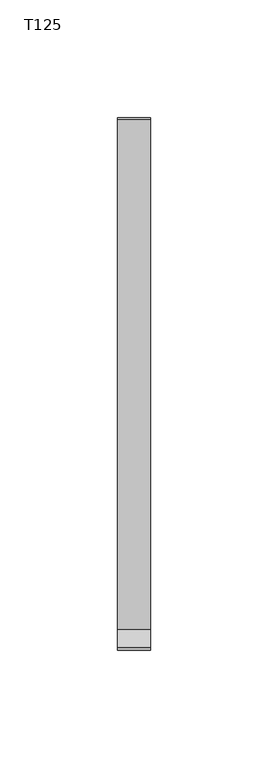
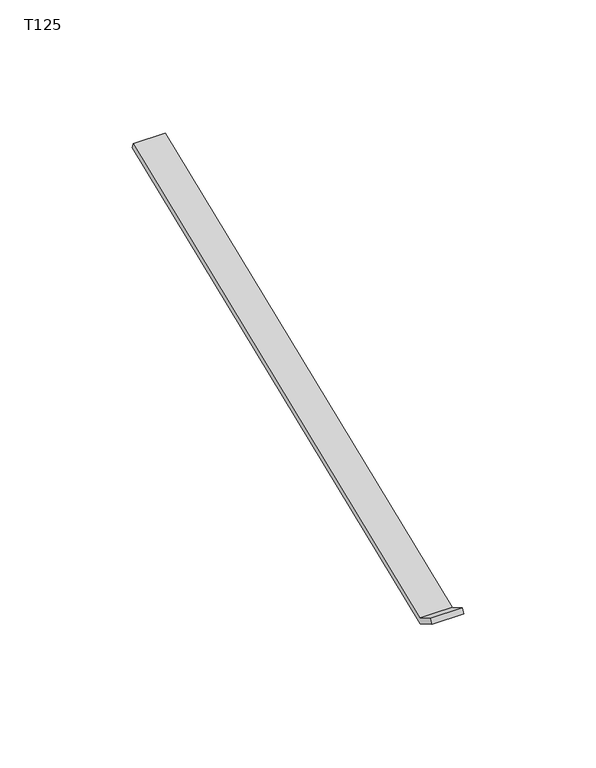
"""IFC4 building model written with IfcOpenShell, lengths in millimetres: proxy geometry, GROVIK_Gutter_Support rod : T125."""

import ifcopenshell
import ifcopenshell.guid

model = None  # the IFC model being written
_history = None  # IfcOwnerHistory: only IFC2X3 demands one
_inside = {}  # id of a spatial element -> (the spatial element, [elements in it])
_under = {}  # id of a project, library or spatial element -> (it, [spatial elements below it])
_declared = {}  # id of a project -> (the project, [libraries it declares])
_typed = {}  # id of a type object -> (the type object, [elements of that type])
_made_of = {}  # id of a material, layer set ... -> (it, [elements and type objects made of it])


def new_model(schema):
    """Start an empty IFC model of exactly this schema.

    Asked for "IFC4X3", IfcOpenShell would pick the latest addendum, in which some entities
    have other attributes; the version numbers below select the first issue.
    IFC2X3 requires an IfcOwnerHistory on every rooted entity: one is made here for all.
    """
    global model, _history
    if schema == "IFC4X3":
        model = ifcopenshell.file(schema_version=(4, 3, 0, 0))
    else:
        model = ifcopenshell.file(schema=schema)
    _inside.clear()
    _under.clear()
    _declared.clear()
    _typed.clear()
    _made_of.clear()
    _history = None
    if model.schema == "IFC2X3":
        org = make("IfcOrganization", Name="unknown")
        user = make(
            "IfcPersonAndOrganization",
            ThePerson=make("IfcPerson", FamilyName="unknown"),
            TheOrganization=org,
        )
        app = make(
            "IfcApplication",
            ApplicationDeveloper=org,
            Version="unknown",
            ApplicationFullName="unknown",
            ApplicationIdentifier="unknown",
        )
        _history = make(
            "IfcOwnerHistory",
            OwningUser=user,
            OwningApplication=app,
            ChangeAction="ADDED",
            CreationDate=0,
        )
    return model


def make(cls, **values):
    """One entity of the class cls with the attributes given. An attribute that is None is left unset."""
    return model.create_entity(
        cls, **{name: value for name, value in values.items() if value is not None}
    )


def rooted(cls, **values):
    """An entity with a GlobalId (a new one), such as an element, a storey or a relation."""
    return make(cls, GlobalId=ifcopenshell.guid.new(), OwnerHistory=_history, **values)


def si_unit(unit_type, name, prefix=None):
    """IfcSIUnit, for example si_unit("LENGTHUNIT", "METRE", prefix="MILLI")."""
    return make("IfcSIUnit", UnitType=unit_type, Prefix=prefix, Name=name)


def assignment(units):
    """IfcUnitAssignment: the units of a project."""
    return None if units is None else make("IfcUnitAssignment", Units=units)


def point(xyz):
    """IfcCartesianPoint."""
    return None if xyz is None else make("IfcCartesianPoint", Coordinates=xyz)


def direction(xyz):
    """IfcDirection."""
    return None if xyz is None else make("IfcDirection", DirectionRatios=xyz)


def frame(location, z_axis=None, x_axis=None):
    """IfcAxis2Placement3D, a coordinate frame: its origin and axes. An axis left out is left unset."""
    return make(
        "IfcAxis2Placement3D",
        Location=point(location),
        Axis=direction(z_axis),
        RefDirection=direction(x_axis),
    )


def origin():
    """The frame at (0, 0, 0) with its axes left unset."""
    return frame((0.0, 0.0, 0.0))


def place(relative_to, where):
    """IfcLocalPlacement: puts the frame where relative to a parent placement (None: the world)."""
    return make(
        "IfcLocalPlacement", PlacementRelTo=relative_to, RelativePlacement=where
    )


def context(
    kind, dimensions, precision=None, world=None, true_north=None, identifier=None
):
    """IfcGeometricRepresentationContext, for example the 3D "Model" context."""
    return make(
        "IfcGeometricRepresentationContext",
        ContextIdentifier=identifier,
        ContextType=kind,
        CoordinateSpaceDimension=dimensions,
        Precision=precision,
        WorldCoordinateSystem=world,
        TrueNorth=true_north,
    )


def project(units=None, contexts=None):
    """IfcProject with its units and contexts."""
    return rooted(
        "IfcProject",
        Name="project",
        RepresentationContexts=contexts,
        UnitsInContext=assignment(units),
    )


def spatial(cls, under=None, at=None, **own):
    """A site, building, storey or space (cls), placed at a placement, below another one or the project."""
    s = rooted(cls, ObjectPlacement=at, **own)
    if under is not None:
        _under.setdefault(under.id(), (under, []))[1].append(s)
    return s


def polyline(points):
    """IfcPolyline through the points."""
    return make("IfcPolyline", Points=[point(p) for p in points])


def outline(outer, holes=None, kind="AREA"):
    """IfcArbitraryClosedProfileDef: a profile drawn as a closed curve; with holes, ...WithVoids."""
    if holes is None:
        return make("IfcArbitraryClosedProfileDef", ProfileType=kind, OuterCurve=outer)
    return make(
        "IfcArbitraryProfileDefWithVoids",
        ProfileType=kind,
        OuterCurve=outer,
        InnerCurves=holes,
    )


def extrude(swept, where, along, depth):
    """IfcExtrudedAreaSolid: the profile swept, set in the frame where, extruded along a direction by depth."""
    return make(
        "IfcExtrudedAreaSolid",
        SweptArea=swept,
        Position=where,
        ExtrudedDirection=direction(along),
        Depth=depth,
    )


def shape(context_of_items, identifier, shape_type, items):
    """IfcShapeRepresentation: the items that make up one representation, for example the "Body"."""
    return make(
        "IfcShapeRepresentation",
        ContextOfItems=context_of_items,
        RepresentationIdentifier=identifier,
        RepresentationType=shape_type,
        Items=items,
    )


def source(mapping_origin, context_of_items, identifier, shape_type, items):
    """IfcRepresentationMap: a shape defined once, which mapped items show again and again."""
    return make(
        "IfcRepresentationMap",
        MappingOrigin=mapping_origin,
        MappedRepresentation=shape(context_of_items, identifier, shape_type, items),
    )


def transform(
    local_origin,
    x_axis=None,
    y_axis=None,
    z_axis=None,
    scale=None,
    scale2=None,
    scale3=None,
    uniform=True,
):
    """IfcCartesianTransformationOperator3D, or its non-uniform kind. x_axis, y_axis, z_axis: its Axis1, 2, 3."""
    if uniform:
        return make(
            "IfcCartesianTransformationOperator3D",
            Axis1=direction(x_axis),
            Axis2=direction(y_axis),
            LocalOrigin=point(local_origin),
            Scale=scale,
            Axis3=direction(z_axis),
        )
    return make(
        "IfcCartesianTransformationOperator3DnonUniform",
        Axis1=direction(x_axis),
        Axis2=direction(y_axis),
        LocalOrigin=point(local_origin),
        Scale=scale,
        Axis3=direction(z_axis),
        Scale2=scale2,
        Scale3=scale3,
    )


def mapped(mapping_source, mapping_target):
    """IfcMappedItem: shows the shape of a source again, moved by a transform."""
    return make(
        "IfcMappedItem", MappingSource=mapping_source, MappingTarget=mapping_target
    )


def made_of(thing, what):
    """Note that an element or type object is made of a material, layer set ...; save() writes the relation."""
    if what is not None:
        _made_of.setdefault(what.id(), (what, []))[1].append(thing)
    return thing


def element(
    cls,
    number,
    at=None,
    inside=None,
    cuts=None,
    type_object=None,
    material=None,
    context=None,
    identifier="Body",
    shape_type=None,
    held_by="IfcProductDefinitionShape",
    body=None,
    shapes=None,
    **own,
):
    """One element of the class cls, such as IfcWall. Its Tag is "e" and its number.

    at: its placement. inside: the storey or other place that contains it. cuts: it is an
    opening in that element (IfcRelVoidsElement). A single representation is given by context,
    identifier, shape_type and body (its items); several are given by shapes. held_by: the class
    of the entity that holds the representations. save() writes the other relations.
    """
    e = rooted(cls, Tag="e%d" % number, ObjectPlacement=at, **own)
    if body is not None:
        shapes = [shape(context, identifier, shape_type, body)]
    if shapes is not None:
        e.Representation = make(held_by, Representations=shapes)
    if inside is not None:
        _inside.setdefault(inside.id(), (inside, []))[1].append(e)
    if cuts is not None:
        rooted(
            "IfcRelVoidsElement", RelatingBuildingElement=cuts, RelatedOpeningElement=e
        )
    if type_object is not None:
        _typed.setdefault(type_object.id(), (type_object, []))[1].append(e)
    return made_of(e, material)


def aggregate(whole, parts):
    """IfcRelAggregates: a whole, such as a stair, and the parts it consists of."""
    return rooted("IfcRelAggregates", RelatingObject=whole, RelatedObjects=parts)


def save(model, path):
    """Write the relations noted so far, then the file.

    IfcRelAggregates (storeys below a building ...), IfcRelContainedInSpatialStructure (elements
    in a storey), IfcRelDefinesByType, IfcRelAssociatesMaterial and IfcRelDeclares: one each for
    every whole, place, type object, material and project.
    """
    for whole, parts in _under.values():
        aggregate(whole, parts)
    for where, things in _inside.values():
        rooted(
            "IfcRelContainedInSpatialStructure",
            RelatedElements=things,
            RelatingStructure=where,
        )
    for kind, things in _typed.values():
        rooted("IfcRelDefinesByType", RelatedObjects=things, RelatingType=kind)
    for what, things in _made_of.values():
        rooted("IfcRelAssociatesMaterial", RelatedObjects=things, RelatingMaterial=what)
    for by, libraries in _declared.values():
        rooted("IfcRelDeclares", RelatingContext=by, RelatedDefinitions=libraries)
    model.write(path)


def t125_4bbe78e1(model_context):
    return source(origin(), model_context, "Body", "SweptSolid", [
        extrude(outline(polyline([(94.2882058, 84.4325495), (-123.6, -3.6), (-132.260254, 1.4), (-131.060254, 3.478461), (-123.4137331, -0.9362599), (93.38915, 86.6577907), (94.2882058, 84.4325495)])), frame((-7.0, 0.0, 0.0), z_axis=(1.0, 0.0, 0.0), x_axis=(0.0, 1.0, 0.0)), (0.0, 0.0, 1.0), 14.0),
    ])


if __name__ == "__main__":
    model = new_model("IFC4")
    model_context = context("Model", 3, world=origin())
    ifc_project = project(units=[si_unit("LENGTHUNIT", "METRE", prefix="MILLI")], contexts=[model_context])
    site = spatial("IfcSite", under=ifc_project)
    building = spatial("IfcBuilding", under=site)
    placement = place(None, origin())
    t125_shape = t125_4bbe78e1(model_context)
    element("IfcBuildingElementProxy", 1, Name="GROVIK_Gutter_Support rod : T125", ObjectType="GROVIK_Gutter_Support rod : T125", at=placement, inside=building, context=model_context, shape_type="MappedRepresentation", body=[
        mapped(t125_shape, transform((0.0, 0.0, 0.0), x_axis=(1.0, 0.0, 0.0), y_axis=(0.0, 1.0, 0.0), z_axis=(0.0, 0.0, 1.0))),
    ])
    save(model, "model.ifc")
